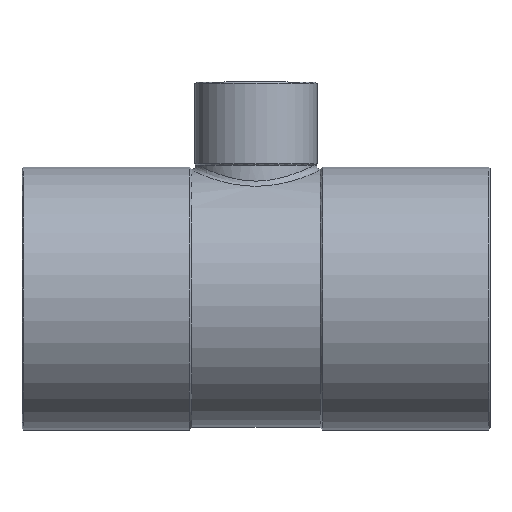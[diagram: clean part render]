
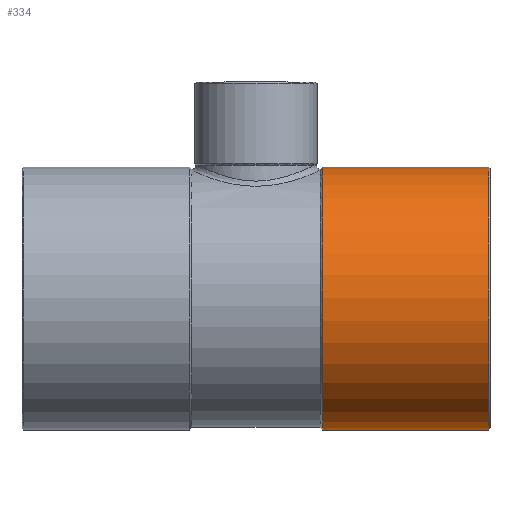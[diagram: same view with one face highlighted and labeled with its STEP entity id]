
A CAD part, top view. The second image highlights one B-rep face of the part: STEP entity #334.
In plain terms, the highlighted cylindrical face has radius 22.475 mm (diameter 44.95 mm), a partial arc.
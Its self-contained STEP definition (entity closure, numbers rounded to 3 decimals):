
#293=CARTESIAN_POINT('',(25.71,0.0,0.0));
#294=DIRECTION('',(1.0,0.0,0.0));
#295=DIRECTION('',(0.0,1.0,0.0));
#296=AXIS2_PLACEMENT_3D('',#293,#294,#295);
#297=CYLINDRICAL_SURFACE('',#296,22.475);
#298=CARTESIAN_POINT('',(11.42,22.475,0.0));
#299=VERTEX_POINT('',#298);
#300=CARTESIAN_POINT('',(39.8,22.475,0.));
#301=VERTEX_POINT('',#300);
#302=CARTESIAN_POINT('',(11.42,22.475,0.0));
#303=DIRECTION('',(1.0,0.0,0.0));
#304=VECTOR('',#303,28.38);
#305=LINE('',#302,#304);
#306=EDGE_CURVE('',#299,#301,#305,.T.);
#307=ORIENTED_EDGE('',*,*,#306,.F.);
#308=CARTESIAN_POINT('',(11.42,-22.475,0.));
#309=VERTEX_POINT('',#308);
#310=CARTESIAN_POINT('',(11.42,0.0,0.0));
#311=DIRECTION('',(1.0,0.0,0.0));
#312=DIRECTION('',(0.0,1.0,0.0));
#313=AXIS2_PLACEMENT_3D('',#310,#311,#312);
#314=CIRCLE('',#313,22.475);
#315=EDGE_CURVE('',#299,#309,#314,.T.);
#316=ORIENTED_EDGE('',*,*,#315,.T.);
#317=CARTESIAN_POINT('',(39.8,-22.475,0.));
#318=VERTEX_POINT('',#317);
#319=CARTESIAN_POINT('',(39.8,-22.475,0.));
#320=DIRECTION('',(-1.0,0.0,0.0));
#321=VECTOR('',#320,28.38);
#322=LINE('',#319,#321);
#323=EDGE_CURVE('',#318,#309,#322,.T.);
#324=ORIENTED_EDGE('',*,*,#323,.F.);
#325=CARTESIAN_POINT('',(39.8,0.0,0.0));
#326=DIRECTION('',(1.0,0.0,0.0));
#327=DIRECTION('',(0.0,-1.0,0.0));
#328=AXIS2_PLACEMENT_3D('',#325,#326,#327);
#329=CIRCLE('',#328,22.475);
#330=EDGE_CURVE('',#301,#318,#329,.T.);
#331=ORIENTED_EDGE('',*,*,#330,.F.);
#332=EDGE_LOOP('',(#307,#316,#324,#331));
#333=FACE_OUTER_BOUND('',#332,.T.);
#334=ADVANCED_FACE('',(#333),#297,.T.);
